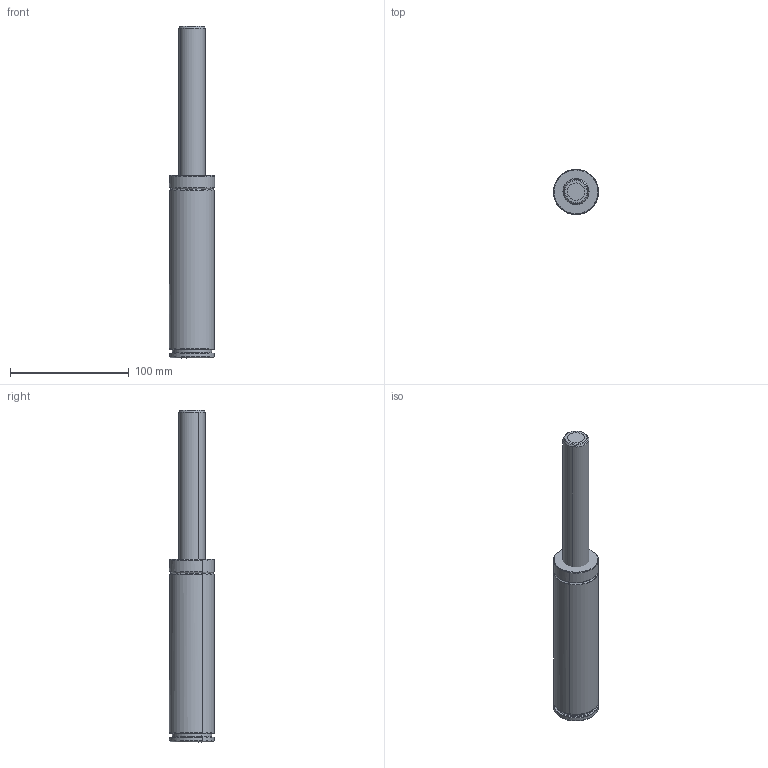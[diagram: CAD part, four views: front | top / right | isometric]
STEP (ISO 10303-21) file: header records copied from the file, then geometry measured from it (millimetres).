
FILE_DESCRIPTION(('CATIA V5 STEP Exchange'),'2;1');
FILE_NAME('W:\CATALOGO GENERAL 2018\FICHEROS CAD\001-MICRO\MICRO 38H\MICRO 38Hx125.stp','2017-10-25T13:50:20+00:00',('none'),('none'),'CATIA Version 5 Release 17 (IN-10)','CATIA V5 STEP AP203','none');
FILE_SCHEMA(('CONFIG_CONTROL_DESIGN'));
Length unit declared in the file: millimetre
Products named in the file (1): MICRO 38Hx125
Assembly tree (2 placements, depth 2):
  MICRO 38Hx125
    #56
    #737
Bounding box: 37.99 x 37.99 x 280 mm (x, y, z)
Volume: 229288.1 mm3; surface area: 32878.4 mm2
Topology: 2 solids, 2 shells, 93 faces, 205 edges, 116 vertices
Faces by surface type: cone 32, torus 31, cylinder 22, plane 8
Entity records: 2895 total; most frequent: CARTESIAN_POINT 932, ORIENTED_EDGE 382, DIRECTION 349, AXIS2_PLACEMENT_3D 198, EDGE_CURVE 191, VERTEX_POINT 111, CIRCLE 105, EDGE_LOOP 102
